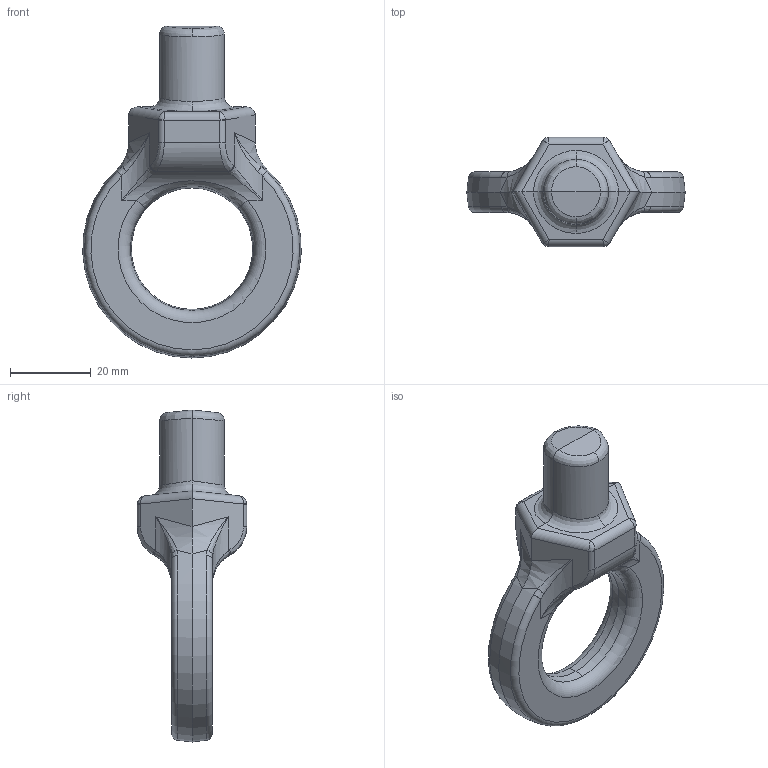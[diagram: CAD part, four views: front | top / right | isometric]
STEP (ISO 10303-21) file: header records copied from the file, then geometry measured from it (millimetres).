
FILE_DESCRIPTION (( 'STEP AP203' ), '1' );
FILE_NAME ('HEB500.STEP', '2013-12-13T00:58:38', ( 'user' ), ( '' ), 'SwSTEP 2.0', 'SolidWorks 2003240', '' );
FILE_SCHEMA (( 'CONFIG_CONTROL_DESIGN' ));
Length unit declared in the file: millimetre
Products named in the file (1): HEB500
Bounding box: 53.95 x 27 x 82 mm (x, y, z)
Volume: 26798.3 mm3; surface area: 7500.7 mm2
Topology: 1 solids, 1 shells, 84 faces, 202 edges, 106 vertices
Faces by surface type: bspline 42, cylinder 20, plane 12, cone 6, torus 4
Entity records: 17900 total; most frequent: CARTESIAN_POINT 16309, ORIENTED_EDGE 380, DIRECTION 231, EDGE_CURVE 190, VERTEX_POINT 106, AXIS2_PLACEMENT_3D 92, FACE_OUTER_BOUND 84, ADVANCED_FACE 84
